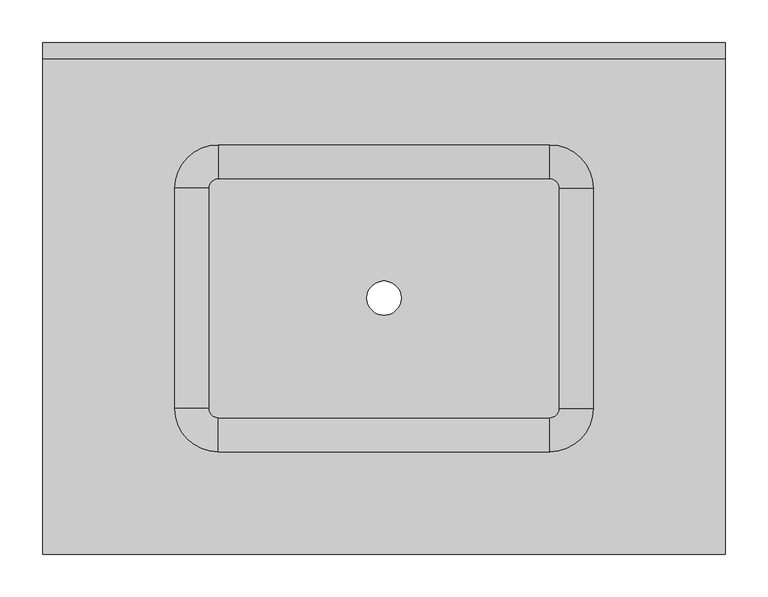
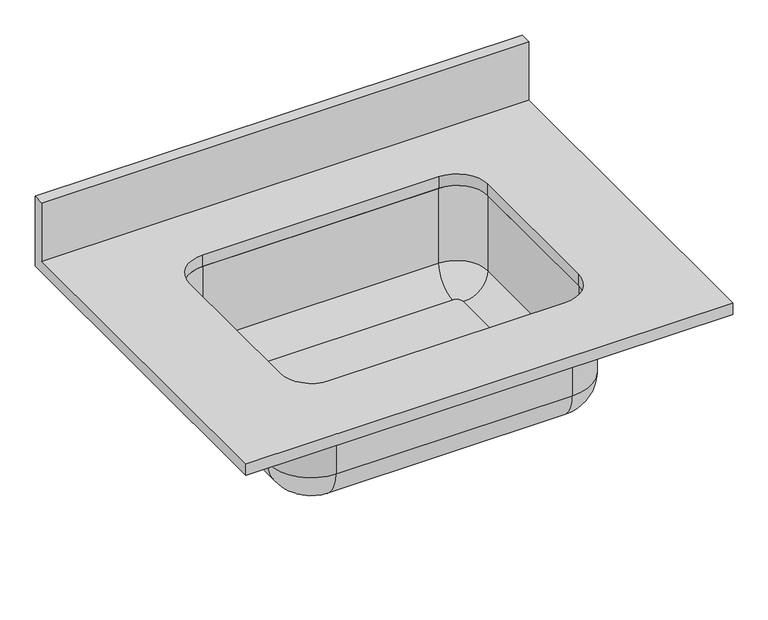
"""IFC4 building model written with IfcOpenShell, lengths in millimetres: furniture geometry, Tampo de Bancada com Cuba : Granilite 60cm."""

from ifc_helpers import new_model, si_unit, point, frame, origin, place, context, project, spatial, polyline, circle_curve, ellipse_curve, trimmed, source, transform, mapped, element, save
from ifc_brep_helpers import plane_surface, cylinder_surface, revolved_surface, advanced_brep


def furniture_c36edc87(model_context):
    return source(origin(), model_context, "Body", "AdvancedBrep", [
        advanced_brep(
        [(-606.2622951, -100.0, 880.0), (-994.6622951, -100.0, 880.0), (-1065.4622951, -170.8, 880.0), (-1065.4622951, -429.2, 880.0), (-994.6622951, -500.0, 880.0), (-606.2622951, -500.0, 880.0), (-535.4622951, -429.2, 880.0), (-535.4622951, -170.8, 880.0), (-606.2622951, -120.0, 880.0), (-555.4622951, -170.8, 880.0), (-555.4622951, -429.2, 880.0), (-606.2622951, -480.0, 880.0), (-994.6622951, -480.0, 880.0), (-1045.4622951, -429.2, 880.0), (-1045.4622951, -170.8, 880.0), (-994.6622951, -120.0, 880.0), (-606.2622951, -120.0, 750.0), (-555.4622951, -170.8, 750.0), (-555.4622951, -429.2, 750.0), (-606.2622951, -480.0, 750.0), (-994.6622951, -480.0, 750.0), (-1045.4622951, -429.2, 750.0), (-1045.4622951, -170.8, 750.0), (-994.6622951, -120.0, 750.0), (-606.2622951, -100.0, 750.0), (-994.6622951, -100.0, 750.0), (-1065.4622951, -170.8, 750.0), (-1065.4622951, -429.2, 750.0), (-994.6622951, -500.0, 750.0), (-606.2622951, -500.0, 750.0), (-535.4622951, -429.2, 750.0), (-535.4622951, -170.8, 750.0), (-595.4622951, -170.8, 710.0), (-606.2622951, -160.0, 710.0), (-994.6622951, -160.0, 710.0), (-1005.4622951, -170.8, 710.0), (-1005.4622951, -429.2, 710.0), (-994.6622951, -440.0, 710.0), (-606.2622951, -440.0, 710.0), (-595.4622951, -429.2, 710.0), (-820.4622951, -299.5288603, 710.0), (-780.4622951, -299.5288603, 710.0), (-606.2622951, -160.0, 690.0), (-595.4622951, -170.8, 690.0), (-595.4622951, -429.2, 690.0), (-606.2622951, -440.0, 690.0), (-994.6622951, -440.0, 690.0), (-1005.4622951, -429.2, 690.0), (-1005.4622951, -170.8, 690.0), (-994.6622951, -160.0, 690.0), (-820.4622951, -299.5288603, 690.0), (-780.4622951, -299.5288603, 690.0)],
        [
            (0, 1),
            (1, 2, circle_curve(frame((-994.6622951, -170.8, 880.0), z_axis=(0.0, 0.0, 1.0), x_axis=(1.0, 0.0, 0.0)), 70.8)),
            (2, 3),
            (3, 4, circle_curve(frame((-994.6622951, -429.2, 880.0), z_axis=(0.0, 0.0, 1.0), x_axis=(1.0, 0.0, 0.0)), 70.8)),
            (4, 5),
            (5, 6, circle_curve(frame((-606.2622951, -429.2, 880.0), z_axis=(0.0, 0.0, 1.0), x_axis=(1.0, 0.0, 0.0)), 70.8)),
            (6, 7),
            (7, 0, circle_curve(frame((-606.2622951, -170.8, 880.0), z_axis=(0.0, 0.0, 1.0), x_axis=(1.0, 0.0, 0.0)), 70.8)),
            (8, 9, circle_curve(frame((-606.2622951, -170.8, 880.0), z_axis=(0.0, 0.0, -1.0), x_axis=(1.0, 0.0, 0.0)), 50.8)),
            (9, 10),
            (10, 11, circle_curve(frame((-606.2622951, -429.2, 880.0), z_axis=(0.0, 0.0, -1.0), x_axis=(1.0, 0.0, 0.0)), 50.8)),
            (11, 12),
            (12, 13, circle_curve(frame((-994.6622951, -429.2, 880.0), z_axis=(0.0, 0.0, -1.0), x_axis=(1.0, 0.0, 0.0)), 50.8)),
            (13, 14),
            (14, 15, circle_curve(frame((-994.6622951, -170.8, 880.0), z_axis=(0.0, 0.0, -1.0), x_axis=(1.0, 0.0, 0.0)), 50.8)),
            (15, 8),
            (8, 16),
            (16, 17, circle_curve(frame((-606.2622951, -170.8, 750.0), z_axis=(0.0, 0.0, -1.0), x_axis=(1.0, 0.0, 0.0)), 50.8)),
            (17, 9),
            (17, 18),
            (18, 10),
            (18, 19, circle_curve(frame((-606.2622951, -429.2, 750.0), z_axis=(0.0, 0.0, -1.0), x_axis=(1.0, 0.0, 0.0)), 50.8)),
            (19, 11),
            (19, 20),
            (20, 12),
            (20, 21, circle_curve(frame((-994.6622951, -429.2, 750.0), z_axis=(0.0, 0.0, -1.0), x_axis=(1.0, 0.0, 0.0)), 50.8)),
            (21, 13),
            (21, 22),
            (22, 14),
            (22, 23, circle_curve(frame((-994.6622951, -170.8, 750.0), z_axis=(0.0, 0.0, -1.0), x_axis=(1.0, 0.0, 0.0)), 50.8)),
            (23, 15),
            (23, 16),
            (0, 24),
            (24, 25),
            (25, 1),
            (25, 26, circle_curve(frame((-994.6622951, -170.8, 750.0), z_axis=(0.0, 0.0, 1.0), x_axis=(1.0, 0.0, 0.0)), 70.8)),
            (26, 2),
            (26, 27),
            (27, 3),
            (27, 28, circle_curve(frame((-994.6622951, -429.2, 750.0), z_axis=(0.0, 0.0, 1.0), x_axis=(1.0, 0.0, 0.0)), 70.8)),
            (28, 4),
            (28, 29),
            (29, 5),
            (29, 30, circle_curve(frame((-606.2622951, -429.2, 750.0), z_axis=(0.0, 0.0, 1.0), x_axis=(1.0, 0.0, 0.0)), 70.8)),
            (30, 6),
            (30, 31),
            (31, 7),
            (31, 24, circle_curve(frame((-606.2622951, -170.8, 750.0), z_axis=(0.0, 0.0, 1.0), x_axis=(1.0, 0.0, 0.0)), 70.8)),
            (32, 33, circle_curve(frame((-606.2622951, -170.8, 710.0), z_axis=(0.0, 0.0, 1.0), x_axis=(0.0, 1.0, 0.0)), 10.8)),
            (33, 34),
            (34, 35, circle_curve(frame((-994.6622951, -170.8, 710.0), z_axis=(0.0, 0.0, 1.0), x_axis=(-1.0, 0.0, 0.0)), 10.8)),
            (35, 36),
            (36, 37, circle_curve(frame((-994.6622951, -429.2, 710.0), z_axis=(0.0, 0.0, 1.0), x_axis=(0.0, -1.0, 0.0)), 10.8)),
            (37, 38),
            (38, 39, circle_curve(frame((-606.2622951, -429.2, 710.0), z_axis=(0.0, 0.0, 1.0), x_axis=(1.0, 0.0, 0.0)), 10.8)),
            (39, 32),
            (40, 41, circle_curve(frame((-800.4622951, -299.5288603, 710.0), z_axis=(0.0, 0.0, -1.0), x_axis=(1.0, 0.0, 0.0)), 20.0)),
            (41, 40, circle_curve(frame((-800.4622951, -299.5288603, 710.0), z_axis=(0.0, 0.0, -1.0), x_axis=(1.0, 0.0, 0.0)), 20.0)),
            (42, 43, circle_curve(frame((-606.2622951, -170.8, 690.0), z_axis=(0.0, 0.0, -1.0), x_axis=(0.0, 1.0, 0.0)), 10.8)),
            (43, 44),
            (44, 45, circle_curve(frame((-606.2622951, -429.2, 690.0), z_axis=(0.0, 0.0, -1.0), x_axis=(1.0, 0.0, 0.0)), 10.8)),
            (45, 46),
            (46, 47, circle_curve(frame((-994.6622951, -429.2, 690.0), z_axis=(0.0, 0.0, -1.0), x_axis=(0.0, -1.0, 0.0)), 10.8)),
            (47, 48),
            (48, 49, circle_curve(frame((-994.6622951, -170.8, 690.0), z_axis=(0.0, 0.0, -1.0), x_axis=(-1.0, 0.0, 0.0)), 10.8)),
            (49, 42),
            (50, 51, circle_curve(frame((-800.4622951, -299.5288603, 690.0), z_axis=(0.0, 0.0, 1.0), x_axis=(1.0, 0.0, 0.0)), 20.0)),
            (51, 50, circle_curve(frame((-800.4622951, -299.5288603, 690.0), z_axis=(0.0, 0.0, 1.0), x_axis=(1.0, 0.0, 0.0)), 20.0)),
            (40, 50),
            (51, 41),
            (42, 24, circle_curve(frame((-606.2622951, -160.0, 750.0), z_axis=(1.0, 0.0, 0.0), x_axis=(0.0, 1.0, 0.0)), 60.0)),
            (31, 43, circle_curve(frame((-595.4622951, -170.8, 750.0), z_axis=(0.0, 1.0, 0.0), x_axis=(1.0, 0.0, 0.0)), 60.0)),
            (16, 33, circle_curve(frame((-606.2622951, -160.0, 750.0), z_axis=(-1.0, 0.0, 0.0), x_axis=(0.0, 1.0, 0.0)), 40.0)),
            (32, 17, circle_curve(frame((-595.4622951, -170.8, 750.0), z_axis=(0.0, -1.0, 0.0), x_axis=(1.0, 0.0, 0.0)), 40.0)),
            (30, 44, circle_curve(frame((-595.4622951, -429.2, 750.0), z_axis=(0.0, 1.0, 0.0), x_axis=(1.0, 0.0, 0.0)), 60.0)),
            (39, 18, circle_curve(frame((-595.4622951, -429.2, 750.0), z_axis=(0.0, -1.0, 0.0), x_axis=(1.0, 0.0, 0.0)), 40.0)),
            (29, 45, circle_curve(frame((-606.2622951, -440.0, 750.0), z_axis=(1.0, 0.0, 0.0), x_axis=(0.0, -1.0, 0.0)), 60.0)),
            (38, 19, circle_curve(frame((-606.2622951, -440.0, 750.0), z_axis=(-1.0, 0.0, 0.0), x_axis=(0.0, -1.0, 0.0)), 40.0)),
            (28, 46, circle_curve(frame((-994.6622951, -440.0, 750.0), z_axis=(1.0, 0.0, 0.0), x_axis=(0.0, -1.0, 0.0)), 60.0)),
            (37, 20, circle_curve(frame((-994.6622951, -440.0, 750.0), z_axis=(-1.0, 0.0, 0.0), x_axis=(0.0, -1.0, 0.0)), 40.0)),
            (27, 47, circle_curve(frame((-1005.4622951, -429.2, 750.0), z_axis=(0.0, -1.0, 0.0), x_axis=(-1.0, 0.0, 0.0)), 60.0)),
            (36, 21, circle_curve(frame((-1005.4622951, -429.2, 750.0), z_axis=(0.0, 1.0, 0.0), x_axis=(-1.0, 0.0, 0.0)), 40.0)),
            (26, 48, circle_curve(frame((-1005.4622951, -170.8, 750.0), z_axis=(0.0, -1.0, 0.0), x_axis=(-1.0, 0.0, 0.0)), 60.0)),
            (35, 22, circle_curve(frame((-1005.4622951, -170.8, 750.0), z_axis=(0.0, 1.0, 0.0), x_axis=(-1.0, 0.0, 0.0)), 40.0)),
            (25, 49, circle_curve(frame((-994.6622951, -160.0, 750.0), z_axis=(-1.0, 0.0, 0.0), x_axis=(0.0, 1.0, 0.0)), 60.0)),
            (34, 23, circle_curve(frame((-994.6622951, -160.0, 750.0), z_axis=(1.0, 0.0, 0.0), x_axis=(0.0, 1.0, 0.0)), 40.0)),
        ],
        [
            plane_surface(frame((-555.4622951, -170.8, 880.0), z_axis=(0.0, 0.0, 1.0), x_axis=(0.0, -1.0, 0.0))),
            revolved_surface(polyline([(-555.4622951, -170.8, 750.0), (-555.4622951, -170.8, 880.0)]), (-606.2622951, -170.8, 750.0), (0.0, 0.0, -1.0)),
            plane_surface(frame((-555.4622951, -170.8, 880.0), z_axis=(-1.0, 0.0, 0.0), x_axis=(0.0, 0.0, -1.0))),
            revolved_surface(polyline([(-555.4622951, -429.2, 750.0), (-555.4622951, -429.2, 880.0)]), (-606.2622951, -429.2, 750.0), (0.0, 0.0, -1.0)),
            plane_surface(frame((-606.2622951, -480.0, 880.0), z_axis=(0.0, 1.0, 0.0), x_axis=(0.0, 0.0, -1.0))),
            revolved_surface(polyline([(-943.8622951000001, -429.2, 750.0), (-943.8622951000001, -429.2, 880.0)]), (-994.6622951, -429.2, 750.0), (0.0, 0.0, -1.0)),
            plane_surface(frame((-1045.4622951, -429.2, 880.0), z_axis=(1.0, 0.0, 0.0), x_axis=(0.0, 0.0, -1.0))),
            revolved_surface(polyline([(-943.8622951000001, -170.8, 750.0), (-943.8622951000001, -170.8, 880.0)]), (-994.6622951, -170.8, 750.0), (0.0, 0.0, -1.0)),
            plane_surface(frame((-994.6622951, -120.0, 880.0), z_axis=(0.0, -1.0, 0.0), x_axis=(0.0, 0.0, -1.0))),
            plane_surface(frame((-606.2622951, -100.0, 880.0), z_axis=(0.0, 1.0, 0.0), x_axis=(0.0, 0.0, -1.0))),
            cylinder_surface(frame((-994.6622951, -170.8, 0.0), z_axis=(0.0, 0.0, 1.0), x_axis=(1.0, 0.0, 0.0)), 70.8),
            plane_surface(frame((-1065.4622951, -170.8, 880.0), z_axis=(-1.0, 0.0, 0.0), x_axis=(0.0, 0.0, -1.0))),
            cylinder_surface(frame((-994.6622951, -429.2, 0.0), z_axis=(0.0, 0.0, 1.0), x_axis=(1.0, 0.0, 0.0)), 70.8),
            plane_surface(frame((-994.6622951, -500.0, 880.0), z_axis=(0.0, -1.0, 0.0), x_axis=(0.0, 0.0, -1.0))),
            cylinder_surface(frame((-606.2622951, -429.2, 0.0), z_axis=(0.0, 0.0, 1.0), x_axis=(1.0, 0.0, 0.0)), 70.8),
            plane_surface(frame((-535.4622951, -429.2, 880.0), z_axis=(1.0, 0.0, 0.0), x_axis=(0.0, 0.0, -1.0))),
            cylinder_surface(frame((-606.2622951, -170.8, 0.0), z_axis=(0.0, 0.0, 1.0), x_axis=(1.0, 0.0, 0.0)), 70.8),
            plane_surface(frame((-994.6622951, -160.0, 710.0), z_axis=(0.0, 0.0, 1.0), x_axis=(-1.0, 0.0, 0.0))),
            plane_surface(frame((-994.6622951, -160.0, 690.0), z_axis=(0.0, 0.0, -1.0), x_axis=(1.0, 0.0, 0.0))),
            revolved_surface(polyline([(-780.4622951, -299.5288603, 690.0), (-780.4622951, -299.5288603, 710.0)]), (-800.4622951, -299.5288603, 0.0), (0.0, 0.0, -1.0)),
            revolved_surface(trimmed(ellipse_curve(frame((-606.2622951, -160.0, 750.0), z_axis=(-1.0, 0.0, 0.0), x_axis=(0.0, 1.0, 0.0)), 60.0, 60.0), [point((-606.2622951, -100.0, 750.0))], [point((-606.2622951, -160.0, 690.0))], True, "CARTESIAN"), (-606.2622951, -170.8, 0.0), (0.0, 0.0, -1.0)),
            revolved_surface(trimmed(ellipse_curve(frame((-606.2622951, -160.0, 750.0), z_axis=(1.0, 0.0, 0.0), x_axis=(0.0, 1.0, 0.0)), 40.0, 40.0), [point((-606.2622951, -160.0, 710.0))], [point((-606.2622951, -120.0, 750.0))], True, "CARTESIAN"), (-606.2622951, -170.8, 0.0), (0.0, 0.0, -1.0)),
            cylinder_surface(frame((-595.4622951, -170.8, 750.0), z_axis=(0.0, 1.0, 0.0), x_axis=(1.0, 0.0, 0.0)), 60.0),
            revolved_surface(polyline([(-555.4622951, -429.2, 750.0), (-555.4622951, -170.8, 750.0)]), (-595.4622951, -170.8, 750.0), (0.0, -1.0, 0.0)),
            revolved_surface(trimmed(ellipse_curve(frame((-595.4622951, -429.2, 750.0), z_axis=(0.0, 1.0, 0.0), x_axis=(1.0, 0.0, 0.0)), 60.0, 60.0), [point((-535.4622951, -429.2, 750.0))], [point((-595.4622951, -429.2, 690.0))], True, "CARTESIAN"), (-606.2622951, -429.2, 0.0), (0.0, 0.0, -1.0)),
            revolved_surface(trimmed(ellipse_curve(frame((-595.4622951, -429.2, 750.0), z_axis=(0.0, -1.0, 0.0), x_axis=(1.0, 0.0, 0.0)), 40.0, 40.0), [point((-595.4622951, -429.2, 710.0))], [point((-555.4622951, -429.2, 750.0))], True, "CARTESIAN"), (-606.2622951, -429.2, 0.0), (0.0, 0.0, -1.0)),
            cylinder_surface(frame((-606.2622951, -440.0, 750.0), z_axis=(1.0, 0.0, 0.0), x_axis=(0.0, -1.0, 0.0)), 60.0),
            revolved_surface(polyline([(-994.6622951, -480.0, 750.0), (-606.2622951, -480.0, 750.0)]), (-606.2622951, -440.0, 750.0), (-1.0, 0.0, 0.0)),
            revolved_surface(trimmed(ellipse_curve(frame((-994.6622951, -440.0, 750.0), z_axis=(1.0, 0.0, 0.0), x_axis=(0.0, -1.0, 0.0)), 60.0, 60.0), [point((-994.6622951, -500.0, 750.0))], [point((-994.6622951, -440.0, 690.0))], True, "CARTESIAN"), (-994.6622951, -429.2, 0.0), (0.0, 0.0, -1.0)),
            revolved_surface(trimmed(ellipse_curve(frame((-994.6622951, -440.0, 750.0), z_axis=(-1.0, 0.0, 0.0), x_axis=(0.0, -1.0, 0.0)), 40.0, 40.0), [point((-994.6622951, -440.0, 710.0))], [point((-994.6622951, -480.0, 750.0))], True, "CARTESIAN"), (-994.6622951, -429.2, 0.0), (0.0, 0.0, -1.0)),
            cylinder_surface(frame((-1005.4622951, -429.2, 750.0), z_axis=(0.0, -1.0, 0.0), x_axis=(-1.0, 0.0, 0.0)), 60.0),
            revolved_surface(polyline([(-1045.4622951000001, -170.8, 750.0), (-1045.4622951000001, -429.2, 750.0)]), (-1005.4622951, -429.2, 750.0), (0.0, 1.0, 0.0)),
            revolved_surface(trimmed(ellipse_curve(frame((-1005.4622951, -170.8, 750.0), z_axis=(0.0, -1.0, 0.0), x_axis=(-1.0, 0.0, 0.0)), 60.0, 60.0), [point((-1065.4622951, -170.8, 750.0))], [point((-1005.4622951, -170.8, 690.0))], True, "CARTESIAN"), (-994.6622951, -170.8, 0.0), (0.0, 0.0, -1.0)),
            revolved_surface(trimmed(ellipse_curve(frame((-1005.4622951, -170.8, 750.0), z_axis=(0.0, 1.0, 0.0), x_axis=(-1.0, 0.0, 0.0)), 40.0, 40.0), [point((-1005.4622951, -170.8, 710.0))], [point((-1045.4622951, -170.8, 750.0))], True, "CARTESIAN"), (-994.6622951, -170.8, 0.0), (0.0, 0.0, -1.0)),
            cylinder_surface(frame((-994.6622951, -160.0, 750.0), z_axis=(-1.0, 0.0, 0.0), x_axis=(0.0, 1.0, 0.0)), 60.0),
            revolved_surface(polyline([(-606.2622951, -120.0, 750.0), (-994.6622951, -120.0, 750.0)]), (-994.6622951, -160.0, 750.0), (1.0, 0.0, 0.0)),
        ],
        [
            (0, [[1, 2, 3, 4, 5, 6, 7, 8], [9, 10, 11, 12, 13, 14, 15, 16]]),
            (1, [[-9, 17, 18, 19]]),
            (2, [[-10, -19, 20, 21]]),
            (3, [[-11, -21, 22, 23]]),
            (4, [[-12, -23, 24, 25]]),
            (5, [[-13, -25, 26, 27]]),
            (6, [[-14, -27, 28, 29]]),
            (7, [[-15, -29, 30, 31]]),
            (8, [[-16, -31, 32, -17]]),
            (9, [[-1, 33, 34, 35]]),
            (10, [[-2, -35, 36, 37]]),
            (11, [[-3, -37, 38, 39]]),
            (12, [[-4, -39, 40, 41]]),
            (13, [[-5, -41, 42, 43]]),
            (14, [[-6, -43, 44, 45]]),
            (15, [[-7, -45, 46, 47]]),
            (16, [[-8, -47, 48, -33]]),
            (17, [[49, 50, 51, 52, 53, 54, 55, 56], [57, 58]]),
            (18, [[59, 60, 61, 62, 63, 64, 65, 66], [67, 68]]),
            (19, [[-57, 69, -68, 70]]),
            (19, [[-58, -70, -67, -69]]),
            (20, [[71, -48, 72, -59]]),
            (21, [[73, -49, 74, -18]]),
            (22, [[-72, -46, 75, -60]]),
            (23, [[-74, -56, 76, -20]]),
            (24, [[-75, -44, 77, -61]]),
            (25, [[-76, -55, 78, -22]]),
            (26, [[-77, -42, 79, -62]]),
            (27, [[-78, -54, 80, -24]]),
            (28, [[-79, -40, 81, -63]]),
            (29, [[-80, -53, 82, -26]]),
            (30, [[-81, -38, 83, -64]]),
            (31, [[-82, -52, 84, -28]]),
            (32, [[-83, -36, 85, -65]]),
            (33, [[-84, -51, 86, -30]]),
            (34, [[-71, -66, -85, -34]]),
            (35, [[-73, -32, -86, -50]]),
        ],
    ),
        advanced_brep(
        [(-1200.4622951, -600.0, 900.0), (-400.4622951, -600.0, 900.0), (-400.4622951, -19.05, 900.0), (-1200.4622951, -19.05, 900.0), (-994.6622951, -120.0, 900.0), (-606.2622951, -120.0, 900.0), (-555.4622951, -170.8, 900.0), (-555.4622951, -429.2, 900.0), (-606.2622951, -480.0, 900.0), (-994.6622951, -480.0, 900.0), (-1045.4622951, -429.2, 900.0), (-1045.4622951, -170.8, 900.0), (-400.4622951, 0.0, 880.0), (-400.4622951, -600.0, 880.0), (-1200.4622951, -600.0, 880.0), (-1200.4622951, 0.0, 880.0), (-606.2622951, -120.0, 880.0), (-994.6622951, -120.0, 880.0), (-1045.4622951, -170.8, 880.0), (-1045.4622951, -429.2, 880.0), (-994.6622951, -480.0, 880.0), (-606.2622951, -480.0, 880.0), (-555.4622951, -429.2, 880.0), (-555.4622951, -170.8, 880.0), (-1200.4622951, 0.0, 1001.6), (-400.4622951, 0.0, 1001.6), (-1200.4622951, -19.05, 1001.6), (-400.4622951, -19.05, 1001.6)],
        [
            (0, 1),
            (1, 2),
            (2, 3),
            (3, 0),
            (4, 5),
            (5, 6, circle_curve(frame((-606.2622951, -170.8, 900.0), z_axis=(0.0, 0.0, -1.0), x_axis=(1.0, 0.0, 0.0)), 50.8)),
            (6, 7),
            (7, 8, circle_curve(frame((-606.2622951, -429.2, 900.0), z_axis=(0.0, 0.0, -1.0), x_axis=(1.0, 0.0, 0.0)), 50.8)),
            (8, 9),
            (9, 10, circle_curve(frame((-994.6622951, -429.2, 900.0), z_axis=(0.0, 0.0, -1.0), x_axis=(1.0, 0.0, 0.0)), 50.8)),
            (10, 11),
            (11, 4, circle_curve(frame((-994.6622951, -170.8, 900.0), z_axis=(0.0, 0.0, -1.0), x_axis=(1.0, 0.0, 0.0)), 50.8)),
            (12, 13),
            (13, 14),
            (14, 15),
            (15, 12),
            (16, 17),
            (17, 18, circle_curve(frame((-994.6622951, -170.8, 880.0), z_axis=(0.0, 0.0, 1.0), x_axis=(1.0, 0.0, 0.0)), 50.8)),
            (18, 19),
            (19, 20, circle_curve(frame((-994.6622951, -429.2, 880.0), z_axis=(0.0, 0.0, 1.0), x_axis=(1.0, 0.0, 0.0)), 50.8)),
            (20, 21),
            (21, 22, circle_curve(frame((-606.2622951, -429.2, 880.0), z_axis=(0.0, 0.0, 1.0), x_axis=(1.0, 0.0, 0.0)), 50.8)),
            (22, 23),
            (23, 16, circle_curve(frame((-606.2622951, -170.8, 880.0), z_axis=(0.0, 0.0, 1.0), x_axis=(1.0, 0.0, 0.0)), 50.8)),
            (15, 24),
            (24, 25),
            (25, 12),
            (14, 0),
            (3, 26),
            (26, 24),
            (13, 1),
            (25, 27),
            (27, 2),
            (26, 27),
            (4, 17),
            (16, 5),
            (11, 18),
            (10, 19),
            (9, 20),
            (8, 21),
            (7, 22),
            (6, 23),
        ],
        [
            plane_surface(frame((-1200.4622951, 0.0, 900.0), z_axis=(0.0, 0.0, 1.0), x_axis=(-1.0, 0.0, 0.0))),
            plane_surface(frame((-1200.4622951, 0.0, 880.0), z_axis=(0.0, 0.0, -1.0), x_axis=(1.0, 0.0, 0.0))),
            plane_surface(frame((-400.4622951, 0.0, 900.0), z_axis=(0.0, 1.0, 0.0), x_axis=(0.0, 0.0, -1.0))),
            plane_surface(frame((-1200.4622951, 0.0, 900.0), z_axis=(-1.0, 0.0, 0.0), x_axis=(0.0, 0.0, -1.0))),
            plane_surface(frame((-1200.4622951, -600.0, 900.0), z_axis=(0.0, -1.0, 0.0), x_axis=(0.0, 0.0, -1.0))),
            plane_surface(frame((-400.4622951, -600.0, 900.0), z_axis=(1.0, 0.0, 0.0), x_axis=(0.0, 0.0, -1.0))),
            plane_surface(frame((-1200.4622951, 0.0, 1001.6), z_axis=(0.0, 0.0, 1.0), x_axis=(0.0, -1.0, 0.0))),
            plane_surface(frame((-1200.4622951, -19.05, 1001.6), z_axis=(0.0, -1.0, 0.0), x_axis=(0.0, 0.0, -1.0))),
            plane_surface(frame((-606.2622951, -120.0, 900.0), z_axis=(0.0, -1.0, 0.0), x_axis=(0.0, 0.0, -1.0))),
            revolved_surface(polyline([(-943.8622951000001, -170.8, 900.0), (-943.8622951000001, -170.8, 880.0)]), (-994.6622951, -170.8, 880.0), (0.0, 0.0, 1.0)),
            plane_surface(frame((-1045.4622951, -170.8, 900.0), z_axis=(1.0, 0.0, 0.0), x_axis=(0.0, 0.0, -1.0))),
            revolved_surface(polyline([(-943.8622951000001, -429.2, 900.0), (-943.8622951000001, -429.2, 880.0)]), (-994.6622951, -429.2, 880.0), (0.0, 0.0, 1.0)),
            plane_surface(frame((-994.6622951, -480.0, 900.0), z_axis=(0.0, 1.0, 0.0), x_axis=(0.0, 0.0, -1.0))),
            revolved_surface(polyline([(-555.4622951, -429.2, 900.0), (-555.4622951, -429.2, 880.0)]), (-606.2622951, -429.2, 880.0), (0.0, 0.0, 1.0)),
            plane_surface(frame((-555.4622951, -429.2, 900.0), z_axis=(-1.0, 0.0, 0.0), x_axis=(0.0, 0.0, -1.0))),
            revolved_surface(polyline([(-555.4622951, -170.8, 900.0), (-555.4622951, -170.8, 880.0)]), (-606.2622951, -170.8, 880.0), (0.0, 0.0, 1.0)),
        ],
        [
            (0, [[1, 2, 3, 4], [5, 6, 7, 8, 9, 10, 11, 12]]),
            (1, [[13, 14, 15, 16], [17, 18, 19, 20, 21, 22, 23, 24]]),
            (2, [[-16, 25, 26, 27]]),
            (3, [[-15, 28, -4, 29, 30, -25]]),
            (4, [[-1, -28, -14, 31]]),
            (5, [[-13, -27, 32, 33, -2, -31]]),
            (6, [[-30, 34, -32, -26]]),
            (7, [[-34, -29, -3, -33]]),
            (8, [[35, -17, 36, -5]]),
            (9, [[-35, -12, 37, -18]]),
            (10, [[-37, -11, 38, -19]]),
            (11, [[-38, -10, 39, -20]]),
            (12, [[-39, -9, 40, -21]]),
            (13, [[-40, -8, 41, -22]]),
            (14, [[-41, -7, 42, -23]]),
            (15, [[-36, -24, -42, -6]]),
        ],
    ),
    ])


if __name__ == "__main__":
    model = new_model("IFC4")
    model_context = context("Model", 3, world=origin())
    ifc_project = project(units=[si_unit("LENGTHUNIT", "METRE", prefix="MILLI")], contexts=[model_context])
    site = spatial("IfcSite", under=ifc_project)
    building = spatial("IfcBuilding", under=site)
    placement = place(None, origin())
    furniture_shape = furniture_c36edc87(model_context)
    element("IfcFurniture", 1, ObjectType="Tampo de Bancada com Cuba : Granilite 60cm", at=placement, inside=building, context=model_context, shape_type="MappedRepresentation", body=[
        mapped(furniture_shape, transform((0.0, 0.0, 0.0), x_axis=(1.0, 0.0, 0.0), y_axis=(0.0, 1.0, 0.0), z_axis=(0.0, 0.0, 1.0))),
    ])
    save(model, "model.ifc")
